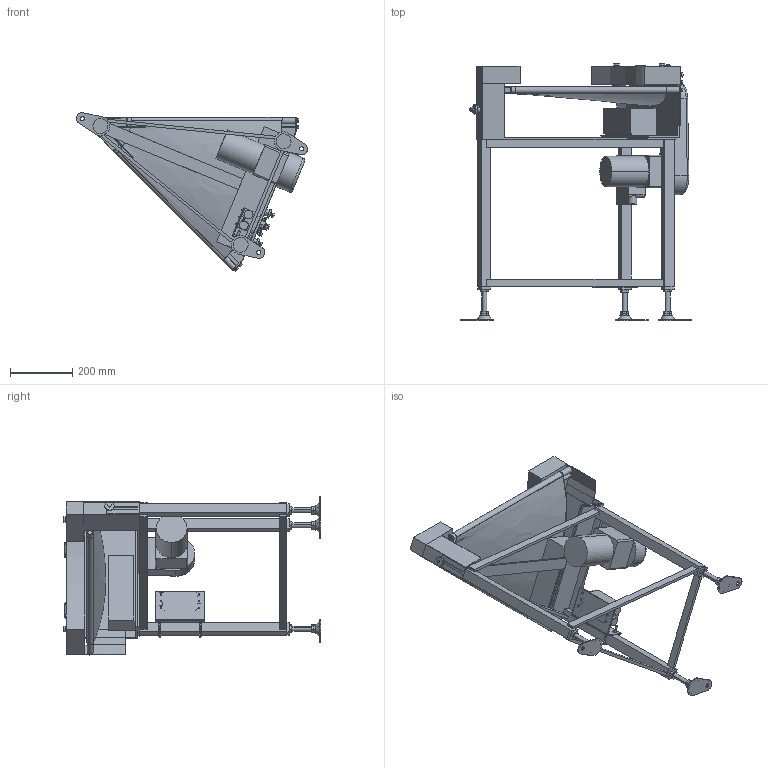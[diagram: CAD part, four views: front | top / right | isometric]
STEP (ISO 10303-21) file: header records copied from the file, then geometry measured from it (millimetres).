
FILE_DESCRIPTION( (''), '2;1');
FILE_NAME ('GFBC-UD-309-400-45°-R-K-60.stp','2025-01-31T09:57:34',(''),(''),'spGate 20.6.2 (****-****-****-****)','','');
FILE_SCHEMA (('AUTOMOTIVE_DESIGN'));
Length unit declared in the file: millimetre
Products named in the file (55): NewModel; TEMP_X_T-prt0; TEMP_X_T-prt1; TEMP_X_T-prt2; TEMP_X_T-prt3; TEMP_X_T-prt4; TEMP_X_T-prt5; TEMP_X_T-prt6; TEMP_X_T-prt7; TEMP_X_T-prt8; TEMP_X_T-prt9; TEMP_X_T-prt10; TEMP_X_T-prt11; TEMP_X_T-prt12; TEMP_X_T-prt13; TEMP_X_T-prt14; TEMP_X_T-prt15; TEMP_X_T-prt16; TEMP_X_T-prt17; TEMP_X_T-prt18; TEMP_X_T-prt19; TEMP_X_T-prt20; TEMP_X_T-prt21; TEMP_X_T-prt22; TEMP_X_T-prt23; TEMP_X_T-prt24; TEMP_X_T-prt25; TEMP_X_T-prt26; TEMP_X_T-prt27; TEMP_X_T-prt28; TEMP_X_T-prt29; TEMP_X_T-prt30; TEMP_X_T-prt31; TEMP_X_T-prt32; TEMP_X_T-prt33; TEMP_X_T-prt34; TEMP_X_T-prt35; TEMP_X_T-prt36; TEMP_X_T-prt37; TEMP_X_T-prt38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
Assembly tree (54 placements, depth 2):
  NewModel
    TEMP_X_T-prt0
    TEMP_X_T-prt1
    TEMP_X_T-prt2
    TEMP_X_T-prt3
    TEMP_X_T-prt4
    TEMP_X_T-prt5
    TEMP_X_T-prt6
    TEMP_X_T-prt7
    TEMP_X_T-prt8
    TEMP_X_T-prt9
    TEMP_X_T-prt10
    TEMP_X_T-prt11
    TEMP_X_T-prt12
    TEMP_X_T-prt13
    TEMP_X_T-prt14
    TEMP_X_T-prt15
    TEMP_X_T-prt16
    TEMP_X_T-prt17
    TEMP_X_T-prt18
    TEMP_X_T-prt19
    TEMP_X_T-prt20
    TEMP_X_T-prt21
    TEMP_X_T-prt22
    TEMP_X_T-prt23
    TEMP_X_T-prt24
    TEMP_X_T-prt25
    TEMP_X_T-prt26
    TEMP_X_T-prt27
    TEMP_X_T-prt28
    TEMP_X_T-prt29
    TEMP_X_T-prt30
    TEMP_X_T-prt31
    TEMP_X_T-prt32
    TEMP_X_T-prt33
    TEMP_X_T-prt34
    TEMP_X_T-prt35
    TEMP_X_T-prt36
    TEMP_X_T-prt37
    TEMP_X_T-prt38
    TEMP_X_T-prt39
    TEMP_X_T-prt40
    TEMP_X_T-prt41
    TEMP_X_T-prt42
    TEMP_X_T-prt43
    TEMP_X_T-prt44
    TEMP_X_T-prt45
    TEMP_X_T-prt46
    TEMP_X_T-prt47
    TEMP_X_T-prt48
    TEMP_X_T-prt49
    TEMP_X_T-prt50
    TEMP_X_T-prt51
    TEMP_X_T-prt52
    TEMP_X_T-prt53
Bounding box: 742.47 x 827.92 x 509.35 mm (x, y, z)
Volume: 14081581.6 mm3; surface area: 2546223.6 mm2
Topology: 54 solids, 54 shells, 1012 faces, 2350 edges, 1527 vertices
Faces by surface type: plane 664, cylinder 282, bspline 62, sphere 4
Entity records: 53201 total; most frequent: CARTESIAN_POINT 9402, DIRECTION 4736, ORIENTED_EDGE 4684, COLOUR_RGB 3408, PRESENTATION_STYLE_ASSIGNMENT 3408, STYLED_ITEM 3408, EDGE_CURVE 2342, DRAUGHTING_PRE_DEFINED_CURVE_FONT 2342
